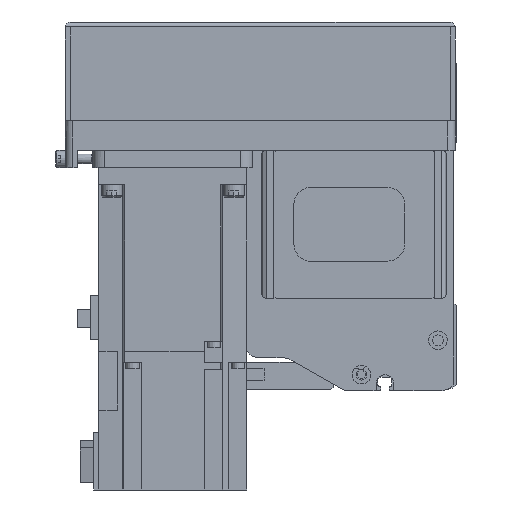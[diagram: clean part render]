
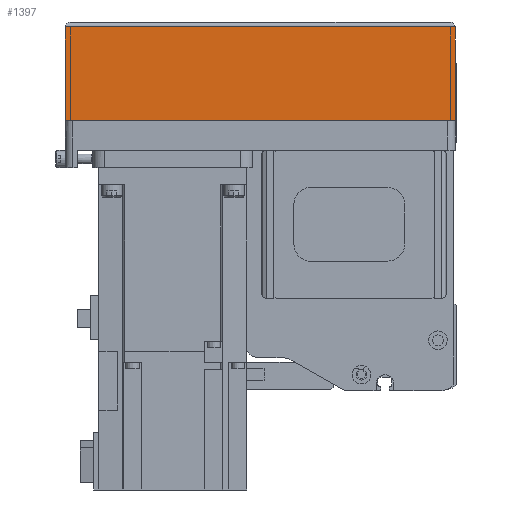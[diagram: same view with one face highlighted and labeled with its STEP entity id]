
A CAD part, left-side view. The second image highlights one B-rep face of the part: STEP entity #1397.
In plain terms, the highlighted planar face has unit normal (-1, 0, 0) as drawn and (0, 1, 0) by its records, which use the part's own axes.
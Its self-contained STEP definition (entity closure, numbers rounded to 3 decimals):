
#1397 = ADVANCED_FACE( '', ( #3785 ), #3786, .T. );
#3785 = FACE_OUTER_BOUND( '', #7537, .T. );
#3786 = PLANE( '', #7538 );
#7537 = EDGE_LOOP( '', ( #11601, #11602, #11603, #11604 ) );
#7538 = AXIS2_PLACEMENT_3D( '', #11605, #11606, #11607 );
#11601 = ORIENTED_EDGE( '', *, *, #21255, .F. );
#11602 = ORIENTED_EDGE( '', *, *, #21256, .F. );
#11603 = ORIENTED_EDGE( '', *, *, #21257, .T. );
#11604 = ORIENTED_EDGE( '', *, *, #21258, .T. );
#11605 = CARTESIAN_POINT( '', ( -158., 39., -50. ) );
#11606 = DIRECTION( '', ( 0., 1., 0. ) );
#11607 = DIRECTION( '', ( 0., 0., 1. ) );
#21255 = EDGE_CURVE( '', #25335, #25336, #25337, .T. );
#21256 = EDGE_CURVE( '', #25338, #25335, #25339, .T. );
#21257 = EDGE_CURVE( '', #25338, #25340, #25341, .T. );
#21258 = EDGE_CURVE( '', #25340, #25336, #25342, .T. );
#25335 = VERTEX_POINT( '', #31328 );
#25336 = VERTEX_POINT( '', #31329 );
#25337 = LINE( '', #31330, #31331 );
#25338 = VERTEX_POINT( '', #31332 );
#25339 = LINE( '', #31333, #31334 );
#25340 = VERTEX_POINT( '', #31335 );
#25341 = LINE( '', #31336, #31337 );
#25342 = LINE( '', #31338, #31339 );
#31328 = CARTESIAN_POINT( '', ( 0., 39., -50. ) );
#31329 = CARTESIAN_POINT( '', ( 0., 39., -12.1 ) );
#31330 = CARTESIAN_POINT( '', ( 0., 39., -50. ) );
#31331 = VECTOR( '', #39759, 1000. );
#31332 = CARTESIAN_POINT( '', ( -158., 39., -50. ) );
#31333 = CARTESIAN_POINT( '', ( -158., 39., -50. ) );
#31334 = VECTOR( '', #39760, 1000. );
#31335 = CARTESIAN_POINT( '', ( -158., 39., -12.1 ) );
#31336 = CARTESIAN_POINT( '', ( -158., 39., -50. ) );
#31337 = VECTOR( '', #39761, 1000. );
#31338 = CARTESIAN_POINT( '', ( -158., 39., -12.1 ) );
#31339 = VECTOR( '', #39762, 1000. );
#39759 = DIRECTION( '', ( 0., 0., 1. ) );
#39760 = DIRECTION( '', ( 1., 0., 0. ) );
#39761 = DIRECTION( '', ( 0., 0., 1. ) );
#39762 = DIRECTION( '', ( 1., 0., 0. ) );
